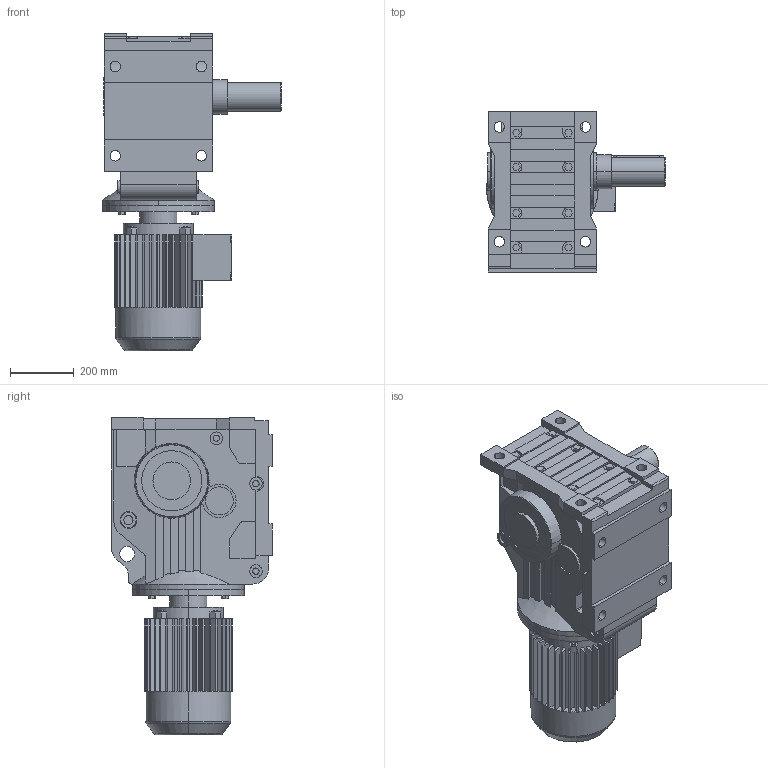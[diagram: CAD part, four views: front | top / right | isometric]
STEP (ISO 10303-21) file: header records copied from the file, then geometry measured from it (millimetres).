
FILE_DESCRIPTION(('Open CASCADE Model'),'2;1');
FILE_NAME('Open CASCADE Shape Model','2021-05-28T14:25:24',('Author'),( 'Open CASCADE'),'Open CASCADE STEP processor 6.3','Open CASCADE 6.3' ,'Unknown');
FILE_SCHEMA(('AUTOMOTIVE_DESIGN_CC2 { 1 2 10303 214 -1 1 5 4 }'));
Length unit declared in the file: millimetre
Products named in the file (4): 1_K107DV160M-A; K37‵157_107.step; 萇儂_350-DV160M-456-568-275-230.step; す瑩妗陑粣K_107.step
Assembly tree (3 placements, depth 2):
  1_K107DV160M-A
    K37‵157_107.step
    萇儂_350-DV160M-456-568-275-230.step
    す瑩妗陑粣K_107.step
Bounding box: 561 x 503 x 997 mm (x, y, z)
Volume: 87715660 mm3; surface area: 2775897.6 mm2
Topology: 3 solids, 3 shells, 842 faces, 2218 edges, 1439 vertices
Faces by surface type: plane 587, cylinder 231, cone 16, torus 8
Entity records: 57934 total; most frequent: CARTESIAN_POINT 15765, DIRECTION 7274, ORIENTED_EDGE 4432, PCURVE 4432, DEFINITIONAL_REPRESENTATION 4432, LINE 3960, VECTOR 3960, EDGE_CURVE 2216
